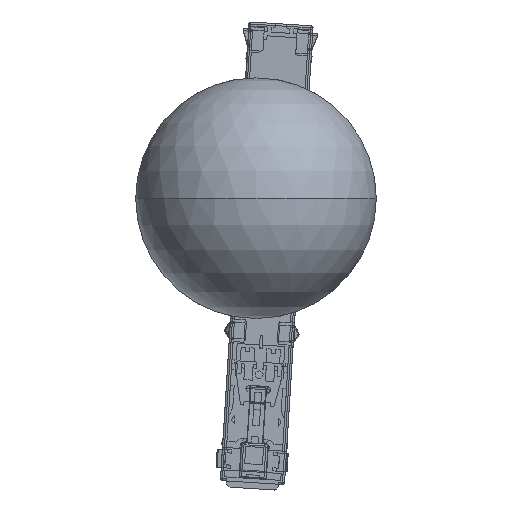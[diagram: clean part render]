
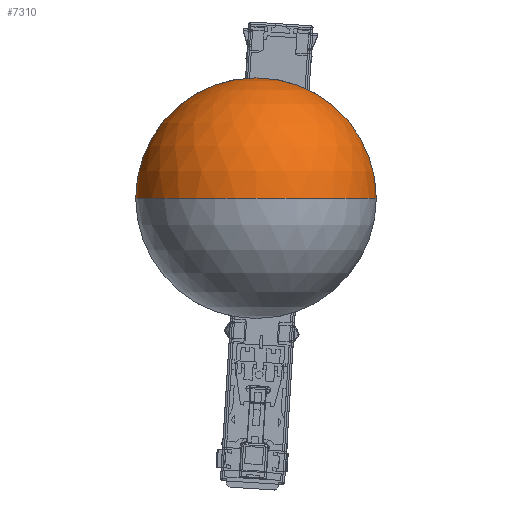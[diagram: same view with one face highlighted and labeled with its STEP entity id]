
A CAD part, front view. The second image highlights one B-rep face of the part: STEP entity #7310.
In plain terms, the highlighted spherical face has radius 30 mm.
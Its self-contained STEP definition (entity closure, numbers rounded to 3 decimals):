
#1181 = VERTEX_POINT ( 'NONE', #10757 ) ;
#2647 = AXIS2_PLACEMENT_3D ( 'NONE', #2720, #16067, #24997 ) ;
#2720 = CARTESIAN_POINT ( 'NONE',  ( -126.537, -579.814, -123.36 ) ) ;
#3390 = ORIENTED_EDGE ( 'NONE', *, *, #11267, .F. ) ;
#4384 = CIRCLE ( 'NONE', #5275, 30. ) ;
#5275 = AXIS2_PLACEMENT_3D ( 'NONE', #47886, #18604, #18076 ) ;
#5877 = CIRCLE ( 'NONE', #23654, 30. ) ;
#7310 = ADVANCED_FACE ( 'NONE', ( #28634 ), #45891, .T. ) ;
#8844 = DIRECTION ( 'NONE',  ( 0., 0., 1. ) ) ;
#9680 = DIRECTION ( 'NONE',  ( -1., 0., 0. ) ) ;
#10757 = CARTESIAN_POINT ( 'NONE',  ( -96.537, -579.814, -123.36 ) ) ;
#11267 = EDGE_CURVE ( 'NONE', #46483, #1181, #5877, .T. ) ;
#12350 = EDGE_CURVE ( 'NONE', #15709, #1181, #31428, .T. ) ;
#15709 = VERTEX_POINT ( 'NONE', #50210 ) ;
#16067 = DIRECTION ( 'NONE',  ( 0., 0., 1. ) ) ;
#18076 = DIRECTION ( 'NONE',  ( -1., 0., 0. ) ) ;
#18604 = DIRECTION ( 'NONE',  ( 0., 0., -1. ) ) ;
#21376 = CARTESIAN_POINT ( 'NONE',  ( -126.537, -579.814, -123.36 ) ) ;
#23654 = AXIS2_PLACEMENT_3D ( 'NONE', #21376, #34206, #9680 ) ;
#24997 = DIRECTION ( 'NONE',  ( -1., 0., 0. ) ) ;
#28144 = EDGE_CURVE ( 'NONE', #15709, #46483, #4384, .T. ) ;
#28634 = FACE_OUTER_BOUND ( 'NONE', #40402, .T. ) ;
#29619 = AXIS2_PLACEMENT_3D ( 'NONE', #38391, #8844, #34770 ) ;
#31428 = CIRCLE ( 'NONE', #29619, 30. ) ;
#34206 = DIRECTION ( 'NONE',  ( 0., 1., 0. ) ) ;
#34770 = DIRECTION ( 'NONE',  ( 1., 0., 0. ) ) ;
#38391 = CARTESIAN_POINT ( 'NONE',  ( -126.537, -579.814, -123.36 ) ) ;
#40402 = EDGE_LOOP ( 'NONE', ( #48685, #41715, #3390 ) ) ;
#40650 = CARTESIAN_POINT ( 'NONE',  ( -156.537, -579.814, -123.36 ) ) ;
#41715 = ORIENTED_EDGE ( 'NONE', *, *, #12350, .T. ) ;
#45891 = SPHERICAL_SURFACE ( 'NONE', #2647, 30. ) ;
#46483 = VERTEX_POINT ( 'NONE', #40650 ) ;
#47886 = CARTESIAN_POINT ( 'NONE',  ( -126.537, -579.814, -123.36 ) ) ;
#48685 = ORIENTED_EDGE ( 'NONE', *, *, #28144, .F. ) ;
#50210 = CARTESIAN_POINT ( 'NONE',  ( -126.537, -609.814, -123.36 ) ) ;
